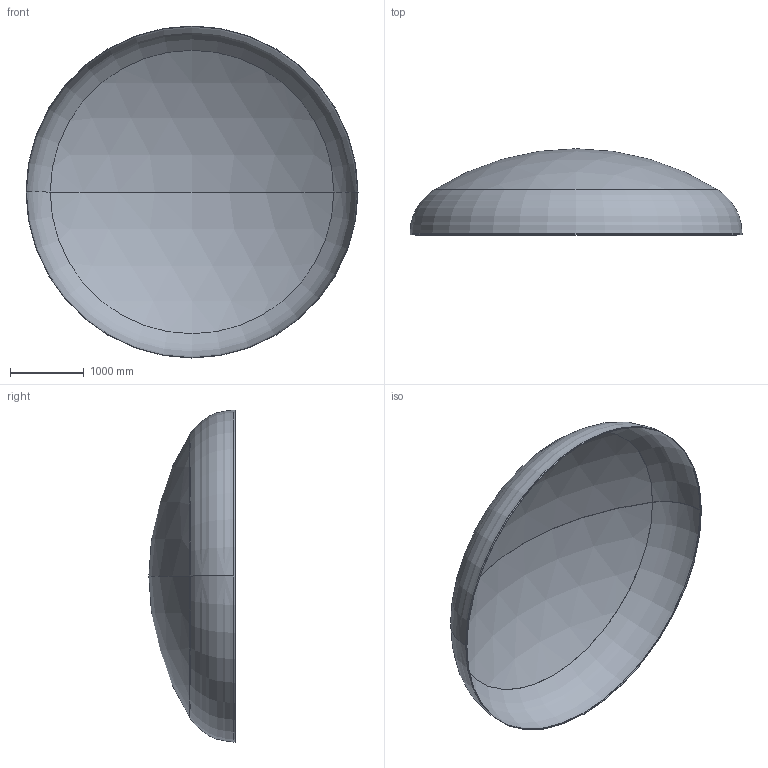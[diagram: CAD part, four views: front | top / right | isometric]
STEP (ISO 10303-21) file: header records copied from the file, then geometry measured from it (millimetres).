
FILE_DESCRIPTION (( 'STEP AP203' ), '1' );
FILE_NAME ('DIN 28013 Korbbogenform_-_Boden DIN 28013 - 4500 x 20 - I - s=4.step', '2016-07-01T22:56:49', ( '' ), ( '' ), 'SwSTEP 2.0', 'SolidWorks 2013', '' );
FILE_SCHEMA (( 'CONFIG_CONTROL_DESIGN' ));
Length unit declared in the file: millimetre
Products named in the file (1): DIN 28013 Korbbogenform_-_Boden DIN 28013 - 4500 x 20 - I - s=4
Bounding box: 4500 x 1167.7 x 4500 mm (x, y, z)
Volume: 89195101.5 mm3; surface area: 44654064.1 mm2
Topology: 1 solids, 1 shells, 13 faces, 24 edges, 14 vertices
Faces by surface type: torus 4, cylinder 4, sphere 4, plane 1
Entity records: 407 total; most frequent: DIRECTION 72, CARTESIAN_POINT 52, ORIENTED_EDGE 48, AXIS2_PLACEMENT_3D 34, EDGE_CURVE 24, CIRCLE 20, EDGE_LOOP 14, VERTEX_POINT 14
